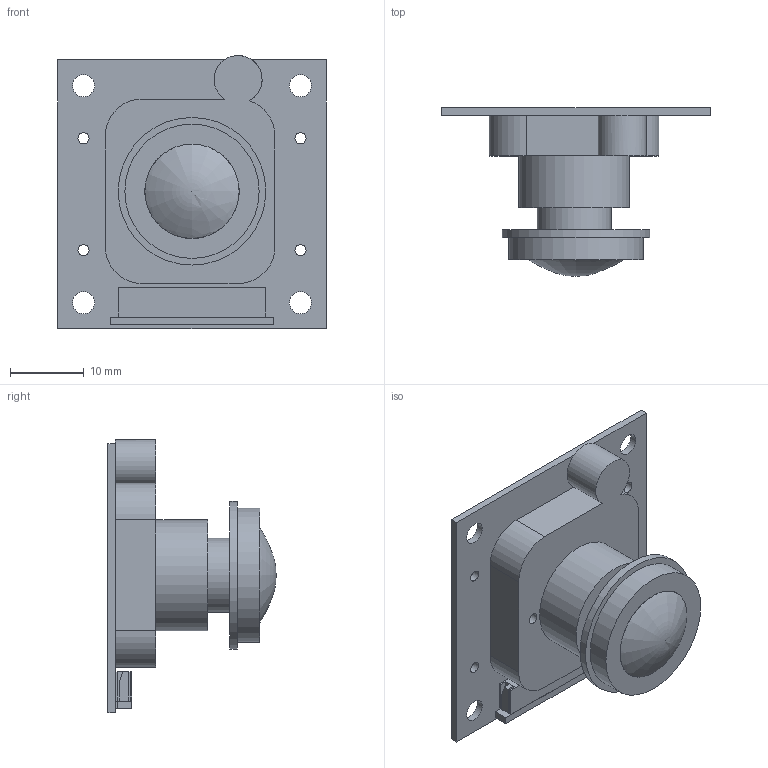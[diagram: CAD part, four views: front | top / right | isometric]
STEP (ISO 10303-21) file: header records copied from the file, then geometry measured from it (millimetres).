
FILE_DESCRIPTION(/* description */ ('','CAx-IF Rec.Pracs.---Representation and Presentation of Product Manufacturing Information (PMI)---4.0---2014-10-13'),/* implementation_level */ '2;1');
FILE_NAME(/* name */ 'ADRUCAM - IR CAMERA (FISHEYE) v1.step',/* time_stamp */ '2025-01-07T23:54:00-06:00',/* author */ (''),/* organization */ (''),/* preprocessor_version */ 'ST-DEVELOPER v20',/* originating_system */ 'Autodesk Translation Framework v13.20.0.188',/* authorisation */ '');
FILE_SCHEMA (('AP242_MANAGED_MODEL_BASED_3D_ENGINEERING_MIM_LF { 1 0 10303 442 1 1 4 }'));
Length unit declared in the file: millimetre
Products named in the file (5): ADRUCAM - IR CAMERA (FISHEYE); BODY; FISHEY (GLASS); CONNECTION (1); CONNECTION (2)
Assembly tree (4 placements, depth 2):
  ADRUCAM - IR CAMERA (FISHEYE)
    BODY
    FISHEY (GLASS)
    CONNECTION (1)
    CONNECTION (2)
Bounding box: 36.4 x 22.78 x 37 mm (x, y, z)
Volume: 7783.7 mm3; surface area: 5340 mm2
Topology: 4 solids, 4 shells, 81 faces, 200 edges, 132 vertices
Faces by surface type: plane 60, cylinder 19, cone 1, bspline 1
Full cylindrical faces by diameter (mm): 1.5 x6, 3 x4, 10 x1, 15 x1, 18.2 x1, 20 x1
Entity records: 2837 total; most frequent: CARTESIAN_POINT 651, DIRECTION 419, ORIENTED_EDGE 398, EDGE_CURVE 199, LINE 155, VECTOR 155, VERTEX_POINT 132, AXIS2_PLACEMENT_3D 132
